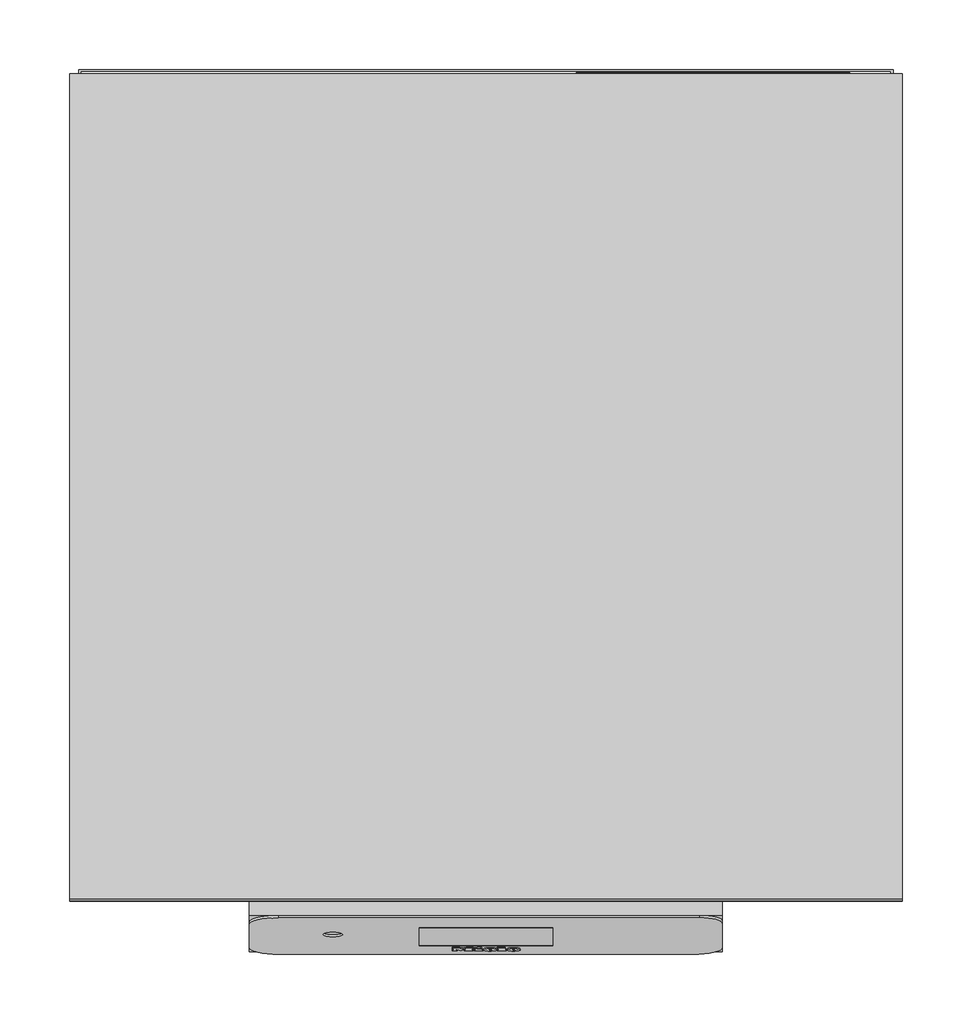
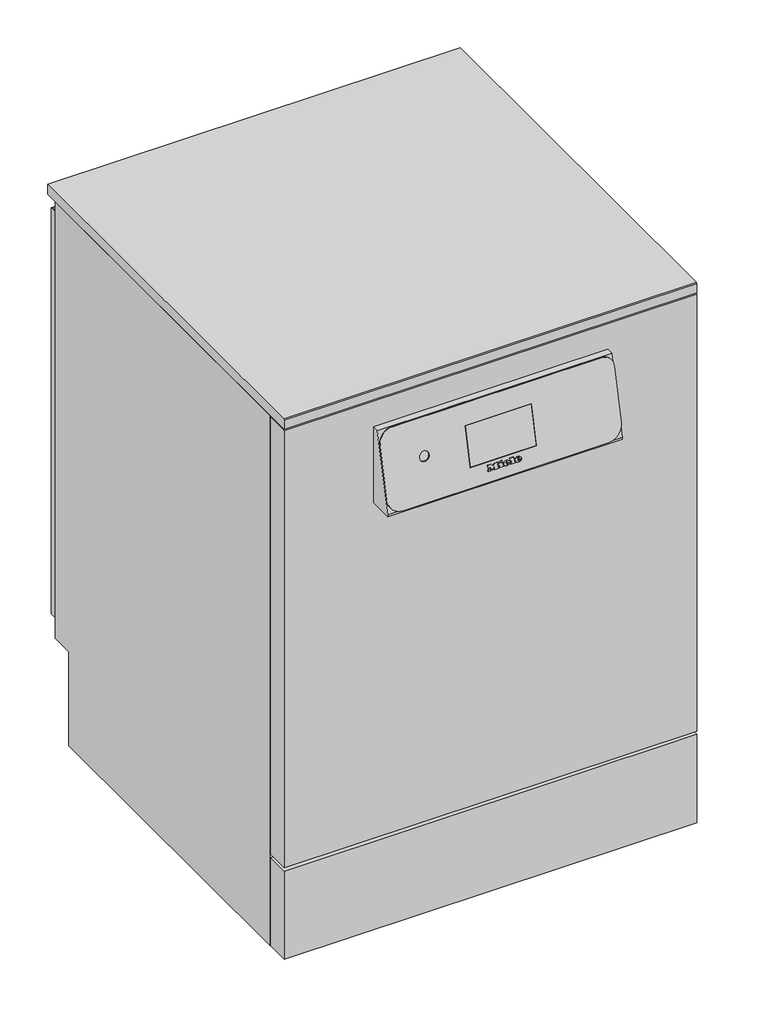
# Not in any storey: 1 proxy.
"""IFC4 building model written with IfcOpenShell, lengths in millimetres."""

from ifc_helpers import new_model, si_unit, origin, place, context, project, spatial, transform, mapped, element, save
from components import specialty_equipment_d3c75e1b

model = new_model("IFC4")

# Units and contexts
model_context = context("Model", 3, world=origin())
ifc_project = project(units=[si_unit("LENGTHUNIT", "METRE", prefix="MILLI")], contexts=[model_context])

# Site, building
site = spatial("IfcSite", under=ifc_project)
building = spatial("IfcBuilding", under=site)

# Proxy
placement = place(None, origin())
specialty_equipment_shape = specialty_equipment_d3c75e1b(model_context)
element("IfcBuildingElementProxy", 1, Name="12065730_NWE_PFD404DOS_SST : 61040487_NWE_12065730_PFD404DOS_SST", ObjectType="12065730_NWE_PFD404DOS_SST : 61040487_NWE_12065730_PFD404DOS_SST", at=placement, inside=building, context=model_context, shape_type="MappedRepresentation", body=[
    mapped(specialty_equipment_shape, transform((0.0, 0.0, 0.0), x_axis=(1.0, 0.0, 0.0), y_axis=(0.0, 1.0, 0.0), z_axis=(0.0, 0.0, 1.0))),
])

save(model, "model.ifc")
